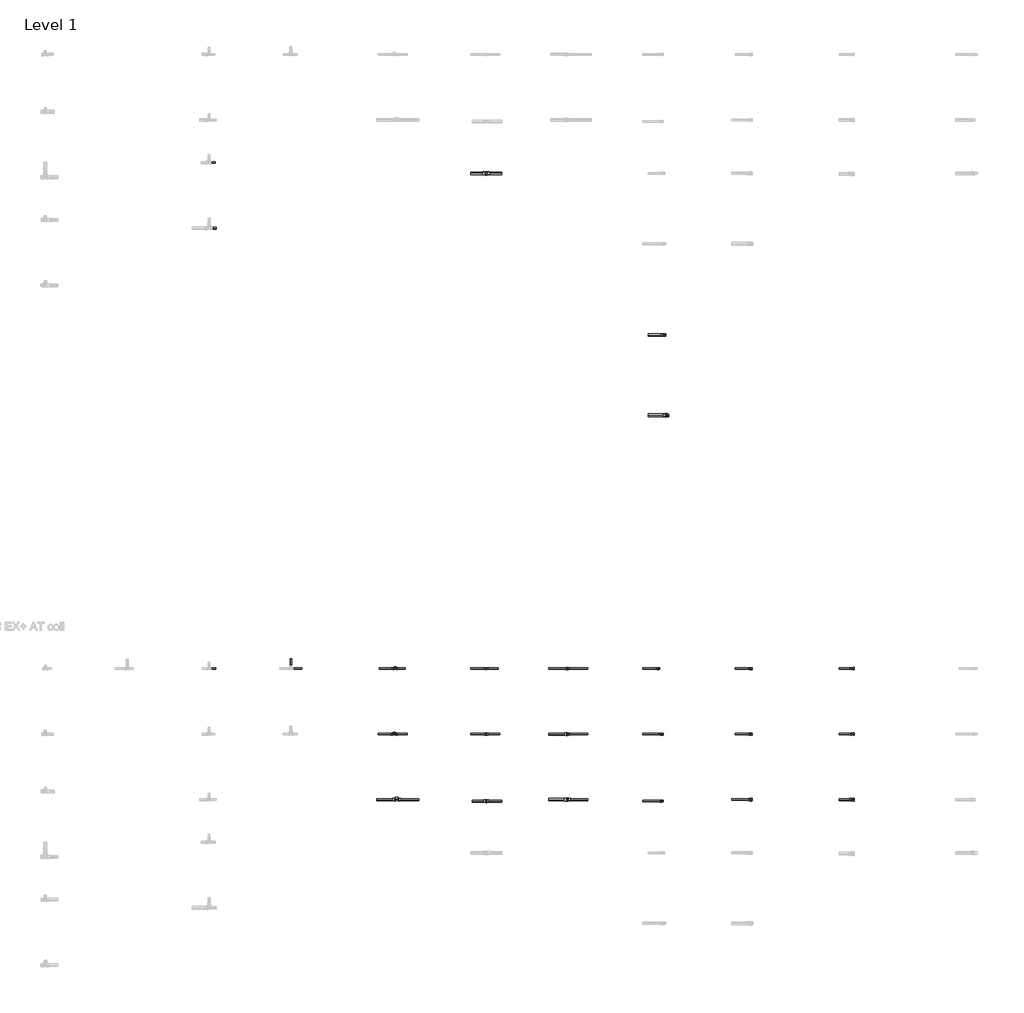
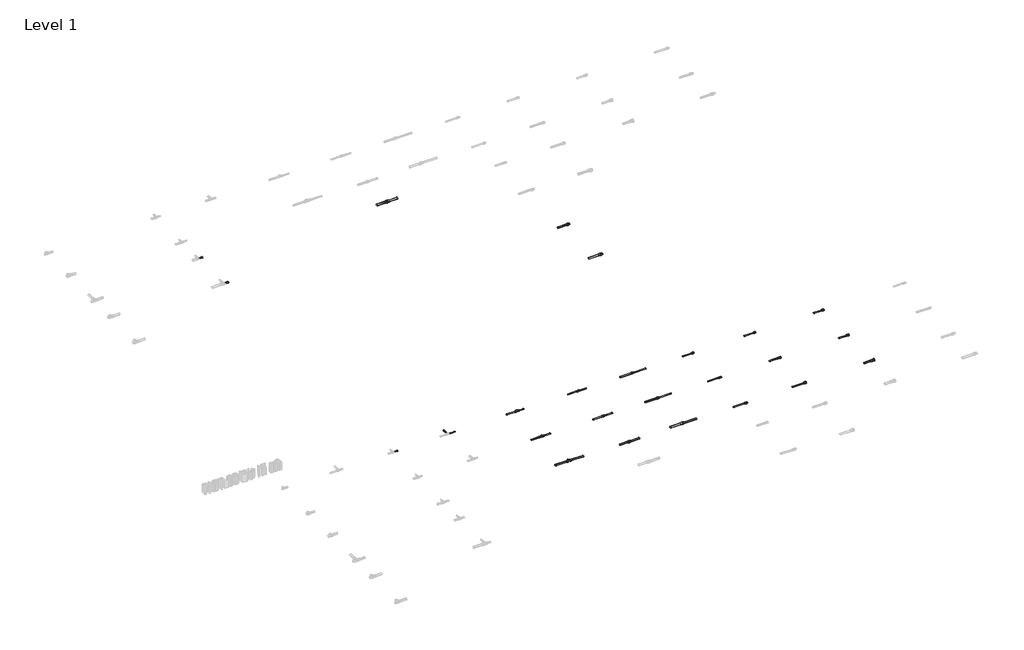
# One storey, part 8 of 16: 36 pipe segments, 21 pipe fittings.
"""IFC4 building model written with IfcOpenShell, lengths in millimetres."""

from ifc_helpers import new_model, si_unit, point, frame, frame_2d, origin, place, context, project, spatial, circle_curve, trimmed, segment, composite_curve, outline, extrude, transform, mapped, element, save
from components import pipe_fitting_15fe286b, pipe_fitting_1a227808, pipe_fitting_455e7b61, pipe_fitting_29307240, pipe_fitting_3f045704, pipe_fitting_db3e6b17, pipe_fitting_a2d92617, pipe_fitting_92973462, pipe_fitting_e5d04139, pipe_fitting_b445dcfe, pipe_fitting_d2a23061, pipe_fitting_8464d15c, pipe_fitting_f8e3a86c, pipe_fitting_d75665eb, pipe_fitting_5e5bb3cb, pipe_fitting_b159315d, pipe_fitting_9284d0bf, pipe_fitting_5ce0ec79, pipe_fitting_622d26cc, pipe_fitting_bacc4522, pipe_fitting_8e6c19f7

model = new_model("IFC4")

# Units and contexts
model_context = context("Model", 3, world=origin())
ifc_project = project(units=[si_unit("LENGTHUNIT", "METRE", prefix="MILLI")], contexts=[model_context])

# Site, building, storey
site = spatial("IfcSite", under=ifc_project)
building = spatial("IfcBuilding", under=site)
storey = spatial("IfcBuildingStorey", under=building, Name="Level 1", Elevation=0.0)

# Pipe fittings
placement = place(None, origin())
pipe_fitting_shape = pipe_fitting_15fe286b(model_context)
element("IfcPipeFitting", 1, ObjectType="FASTLOC_T-piece internal thread EX+ : FSL T thread EX+ AT", at=placement, inside=storey, context=model_context, shape_type="MappedRepresentation", body=[
    mapped(pipe_fitting_shape, transform((34234.0203333, -6287.6479967, 0.0), x_axis=(1.0, 0.0, 0.0), y_axis=(0.0, 1.0, 0.0), z_axis=(0.0, 0.0, 1.0))),
])
pipe_fitting_2_shape = pipe_fitting_1a227808(model_context)
element("IfcPipeFitting", 2, ObjectType="FASTLOC_Coupling reduced EX+ : FSL C EX+ AT", at=placement, inside=storey, context=model_context, shape_type="MappedRepresentation", body=[
    mapped(pipe_fitting_2_shape, transform((36342.2258143, -7887.6479967, 0.0), x_axis=(1.0, 0.0, 0.0), y_axis=(0.0, 1.0, 0.0), z_axis=(0.0, 0.0, 1.0))),
])
pipe_fitting_3_shape = pipe_fitting_455e7b61(model_context)
element("IfcPipeFitting", 3, ObjectType="FASTLOC_Coupling equal EX+ : FSL C EX AT", at=placement, inside=storey, context=model_context, shape_type="MappedRepresentation", body=[
    mapped(pipe_fitting_3_shape, transform((35347.6401575, -6287.6479967, 0.0), x_axis=(1.0, 0.0, 0.0), y_axis=(0.0, 1.0, 0.0), z_axis=(0.0, 0.0, 1.0))),
])
pipe_fitting_4_shape = pipe_fitting_29307240(model_context)
element("IfcPipeFitting", 4, ObjectType="FASTLOC_Adapter_EX+, with internal thread : FSL A internal AT", at=placement, inside=storey, context=model_context, shape_type="MappedRepresentation", body=[
    mapped(pipe_fitting_4_shape, transform((38579.5143796, -6287.6479967, 0.0), x_axis=(1.0, 0.0, 0.0), y_axis=(0.0, 1.0, 0.0), z_axis=(0.0, 0.0, 1.0))),
])
pipe_fitting_5_shape = pipe_fitting_3f045704(model_context)
element("IfcPipeFitting", 5, ObjectType="FASTLOC_Adapter_RX+, with external thread : FSL A C external EX+ AT", at=placement, inside=storey, context=model_context, shape_type="MappedRepresentation", body=[
    mapped(pipe_fitting_5_shape, transform((37445.0524741, -6287.6479967, 0.0), x_axis=(1.0, 0.0, 0.0), y_axis=(0.0, 1.0, 0.0), z_axis=(0.0, 0.0, 1.0))),
])
pipe_fitting_6_shape = pipe_fitting_db3e6b17(model_context)
element("IfcPipeFitting", 6, ObjectType="FASTLOC_Adapter_EX+, with internal thread : FSL A internal AT", at=placement, inside=storey, context=model_context, shape_type="MappedRepresentation", body=[
    mapped(pipe_fitting_6_shape, transform((38579.5143796, -7087.6479967, 0.0), x_axis=(1.0, 0.0, 0.0), y_axis=(0.0, 1.0, 0.0), z_axis=(0.0, 0.0, 1.0))),
])
pipe_fitting_7_shape = pipe_fitting_a2d92617(model_context)
element("IfcPipeFitting", 7, ObjectType="FASTLOC_Adapter_EX+, with internal thread : FSL A internal AT", at=placement, inside=storey, context=model_context, shape_type="MappedRepresentation", body=[
    mapped(pipe_fitting_7_shape, transform((38579.5143796, -7887.6479967, 0.0), x_axis=(1.0, 0.0, 0.0), y_axis=(0.0, 1.0, 0.0), z_axis=(0.0, 0.0, 1.0))),
])
pipe_fitting_8_shape = pipe_fitting_92973462(model_context)
element("IfcPipeFitting", 8, ObjectType="FASTLOC_T-piece internal thread EX+ : FSL T thread EX+ AT", at=placement, inside=storey, context=model_context, shape_type="MappedRepresentation", body=[
    mapped(pipe_fitting_8_shape, transform((34223.972973, -7087.6479967, 0.0), x_axis=(1.0, 0.0, 0.0), y_axis=(0.0, 1.0, 0.0), z_axis=(0.0, 0.0, 1.0))),
])
pipe_fitting_9_shape = pipe_fitting_e5d04139(model_context)
element("IfcPipeFitting", 9, ObjectType="FASTLOC_T-piece internal thread EX+ : FSL T thread EX+ AT", at=placement, inside=storey, context=model_context, shape_type="MappedRepresentation", body=[
    mapped(pipe_fitting_9_shape, transform((34254.9423493, -7887.6479967, 0.0), x_axis=(1.0, 0.0, 0.0), y_axis=(0.0, 1.0, 0.0), z_axis=(0.0, 0.0, 1.0))),
])
pipe_fitting_10_shape = pipe_fitting_b445dcfe(model_context)
element("IfcPipeFitting", 10, ObjectType="FASTLOC_Coupling reduced EX+ : FSL C EX+ AT", at=placement, inside=storey, context=model_context, shape_type="MappedRepresentation", body=[
    mapped(pipe_fitting_10_shape, transform((36342.2258143, -6287.6479967, 0.0), x_axis=(1.0, 0.0, 0.0), y_axis=(0.0, 1.0, 0.0), z_axis=(0.0, 0.0, 1.0))),
])
pipe_fitting_11_shape = pipe_fitting_d2a23061(model_context)
element("IfcPipeFitting", 11, ObjectType="FASTLOC_Coupling reduced EX+ : FSL C EX+ AT", at=placement, inside=storey, context=model_context, shape_type="MappedRepresentation", body=[
    mapped(pipe_fitting_11_shape, transform((36342.2258143, -7087.6479967, 0.0), x_axis=(1.0, 0.0, 0.0), y_axis=(0.0, 1.0, 0.0), z_axis=(0.0, 0.0, 1.0))),
])
pipe_fitting_12_shape = pipe_fitting_8464d15c(model_context)
element("IfcPipeFitting", 12, ObjectType="FASTLOC_Coupling equal EX+ : FSL C EX DE", at=placement, inside=storey, context=model_context, shape_type="MappedRepresentation", body=[
    mapped(pipe_fitting_12_shape, transform((35347.6401575, -239.0537829, 0.0), x_axis=(1.0, 0.0, 0.0), y_axis=(0.0, 1.0, 0.0), z_axis=(0.0, 0.0, 1.0))),
])
pipe_fitting_13_shape = pipe_fitting_f8e3a86c(model_context)
element("IfcPipeFitting", 13, ObjectType="FASTLOC_Coupling equal EX+ : FSL C EX AT", at=placement, inside=storey, context=model_context, shape_type="MappedRepresentation", body=[
    mapped(pipe_fitting_13_shape, transform((35347.6401575, -7087.6479967, 0.0), x_axis=(1.0, 0.0, 0.0), y_axis=(0.0, 1.0, 0.0), z_axis=(0.0, 0.0, 1.0))),
])
pipe_fitting_14_shape = pipe_fitting_d75665eb(model_context)
element("IfcPipeFitting", 14, ObjectType="FASTLOC_Coupling equal EX+ : FSL C EX AT", at=placement, inside=storey, context=model_context, shape_type="MappedRepresentation", body=[
    mapped(pipe_fitting_14_shape, transform((35347.6401575, -7906.354246, 0.0), x_axis=(1.0, 0.0, 0.0), y_axis=(0.0, 1.0, 0.0), z_axis=(0.0, 0.0, 1.0))),
])
pipe_fitting_15_shape = pipe_fitting_5e5bb3cb(model_context)
element("IfcPipeFitting", 15, ObjectType="FASTLOC_Adapter_RX+, with external thread : FSL A C external EX+ DE", at=placement, inside=storey, context=model_context, shape_type="MappedRepresentation", body=[
    mapped(pipe_fitting_15_shape, transform((37515.9601208, -2213.6704117, 0.0), x_axis=(1.0, 0.0, 0.0), y_axis=(0.0, 1.0, 0.0), z_axis=(0.0, 0.0, 1.0))),
])
pipe_fitting_16_shape = pipe_fitting_b159315d(model_context)
element("IfcPipeFitting", 16, ObjectType="FASTLOC_Adapter_RX+, with external thread : FSL A C external EX+ DE", at=placement, inside=storey, context=model_context, shape_type="MappedRepresentation", body=[
    mapped(pipe_fitting_16_shape, transform((37553.9463601, -3193.7153858, 0.0), x_axis=(1.0, 0.0, 0.0), y_axis=(0.0, 1.0, 0.0), z_axis=(0.0, 0.0, 1.0))),
])
pipe_fitting_17_shape = pipe_fitting_9284d0bf(model_context)
element("IfcPipeFitting", 17, ObjectType="FASTLOC_Adapter_RX+, with external thread : FSL A C external EX+ AT", at=placement, inside=storey, context=model_context, shape_type="MappedRepresentation", body=[
    mapped(pipe_fitting_17_shape, transform((37480.5062975, -7087.6479967, 0.0), x_axis=(1.0, 0.0, 0.0), y_axis=(0.0, 1.0, 0.0), z_axis=(0.0, 0.0, 1.0))),
])
pipe_fitting_18_shape = pipe_fitting_5ce0ec79(model_context)
element("IfcPipeFitting", 18, ObjectType="FASTLOC_Adapter_RX+, with external thread : FSL A C external EX+ AT", at=placement, inside=storey, context=model_context, shape_type="MappedRepresentation", body=[
    mapped(pipe_fitting_18_shape, transform((37490.6359613, -7906.354246, 0.0), x_axis=(1.0, 0.0, 0.0), y_axis=(0.0, 1.0, 0.0), z_axis=(0.0, 0.0, 1.0))),
])
pipe_fitting_19_shape = pipe_fitting_622d26cc(model_context)
element("IfcPipeFitting", 19, ObjectType="FASTLOC_Adapter with union nut EX+ : FSL A union nut EX+ AT", at=placement, inside=storey, context=model_context, shape_type="MappedRepresentation", body=[
    mapped(pipe_fitting_19_shape, transform((39818.3503777, -7087.6479967, 0.0), x_axis=(1.0, 0.0, 0.0), y_axis=(0.0, 1.0, 0.0), z_axis=(0.0, 0.0, 1.0))),
])
pipe_fitting_20_shape = pipe_fitting_bacc4522(model_context)
element("IfcPipeFitting", 20, ObjectType="FASTLOC_Adapter with union nut EX+ : FSL A union nut EX+ AT", at=placement, inside=storey, context=model_context, shape_type="MappedRepresentation", body=[
    mapped(pipe_fitting_20_shape, transform((39818.3503777, -7887.6479967, 0.0), x_axis=(1.0, 0.0, 0.0), y_axis=(0.0, 1.0, 0.0), z_axis=(0.0, 0.0, 1.0))),
])
pipe_fitting_21_shape = pipe_fitting_8e6c19f7(model_context)
element("IfcPipeFitting", 21, ObjectType="FASTLOC_Adapter with union nut EX+ : FSL A union nut EX+ AT", at=placement, inside=storey, context=model_context, shape_type="MappedRepresentation", body=[
    mapped(pipe_fitting_21_shape, transform((39818.3503777, -6287.6479967, 0.0), x_axis=(1.0, 0.0, 0.0), y_axis=(0.0, 1.0, 0.0), z_axis=(0.0, 0.0, 1.0))),
])

# Pipe segments
element("IfcPipeSegment", 22, ObjectType="FASTLOC EX+ ML DE coil", at=placement, inside=storey, context=model_context, shape_type="SweptSolid", body=[
    extrude(outline(composite_curve([segment(trimmed(circle_curve(frame_2d((-2213.6704117, 0.0)), 12.5), [point((-2201.1704117, 0.0))], [point((-2213.6704117, -12.5))], False, "CARTESIAN"), True, "CONTINUOUS"), segment(trimmed(circle_curve(frame_2d((-2213.6704117, 0.0)), 12.5), [point((-2213.6704117, -12.5))], [point((-2226.1704117, 0.0))], False, "CARTESIAN"), True, "CONTINUOUS"), segment(trimmed(circle_curve(frame_2d((-2213.6704117, 0.0)), 12.5), [point((-2226.1704117, 0.0))], [point((-2213.6704117, 12.5))], False, "CARTESIAN"), True, "CONTINUOUS"), segment(trimmed(circle_curve(frame_2d((-2213.6704117, 0.0)), 12.5), [point((-2213.6704117, 12.5))], [point((-2201.1704117, 0.0))], False, "CARTESIAN"), True, "CONTINUOUS")], self_intersect=False)), frame((37326.5601208, 0.0, 0.0), z_axis=(1.0, 0.0, 0.0), x_axis=(0.0, 1.0, 0.0)), (0.0, 0.0, 1.0), 180.0),
])
element("IfcPipeSegment", 23, ObjectType="FASTLOC EX+ ML DE coil", at=placement, inside=storey, context=model_context, shape_type="SweptSolid", body=[
    extrude(outline(composite_curve([segment(trimmed(circle_curve(frame_2d((-239.0537829, 0.0)), 16.0), [point((-255.0537829, 0.0))], [point((-239.0537829, 16.0))], False, "CARTESIAN"), True, "CONTINUOUS"), segment(trimmed(circle_curve(frame_2d((-239.0537829, 0.0)), 16.0), [point((-239.0537829, 16.0))], [point((-223.0537829, 0.0))], False, "CARTESIAN"), True, "CONTINUOUS"), segment(trimmed(circle_curve(frame_2d((-239.0537829, 0.0)), 16.0), [point((-223.0537829, 0.0))], [point((-239.0537829, -16.0))], False, "CARTESIAN"), True, "CONTINUOUS"), segment(trimmed(circle_curve(frame_2d((-239.0537829, 0.0)), 16.0), [point((-239.0537829, -16.0))], [point((-255.0537829, 0.0))], False, "CARTESIAN"), True, "CONTINUOUS")], self_intersect=False)), frame((35357.6401575, 0.0, 0.0), z_axis=(1.0, 0.0, 0.0), x_axis=(0.0, 1.0, 0.0)), (0.0, 0.0, 1.0), 178.0),
])
element("IfcPipeSegment", 24, ObjectType="FASTLOC EX+ ML DE coil", at=placement, inside=storey, context=model_context, shape_type="SweptSolid", body=[
    extrude(outline(composite_curve([segment(trimmed(circle_curve(frame_2d((-239.0537829, 0.0)), 16.0), [point((-223.0537829, 0.0))], [point((-239.0537829, -16.0))], False, "CARTESIAN"), True, "CONTINUOUS"), segment(trimmed(circle_curve(frame_2d((-239.0537829, 0.0)), 16.0), [point((-239.0537829, -16.0))], [point((-255.0537829, 0.0))], False, "CARTESIAN"), True, "CONTINUOUS"), segment(trimmed(circle_curve(frame_2d((-239.0537829, 0.0)), 16.0), [point((-255.0537829, 0.0))], [point((-239.0537829, 16.0))], False, "CARTESIAN"), True, "CONTINUOUS"), segment(trimmed(circle_curve(frame_2d((-239.0537829, 0.0)), 16.0), [point((-239.0537829, 16.0))], [point((-223.0537829, 0.0))], False, "CARTESIAN"), True, "CONTINUOUS")], self_intersect=False)), frame((35157.6401575, 0.0, 0.0), z_axis=(1.0, 0.0, 0.0), x_axis=(0.0, 1.0, 0.0)), (0.0, 0.0, 1.0), 180.0),
])
element("IfcPipeSegment", 25, ObjectType="FASTLOC EX+ ML DE coil", at=placement, inside=storey, context=model_context, shape_type="SweptSolid", body=[
    extrude(outline(composite_curve([segment(trimmed(circle_curve(frame_2d((-107.6479967, 0.0)), 10.0), [point((-117.6479967, 0.0))], [point((-107.6479967, 10.0))], False, "CARTESIAN"), True, "CONTINUOUS"), segment(trimmed(circle_curve(frame_2d((-107.6479967, 0.0)), 10.0), [point((-107.6479967, 10.0))], [point((-97.6479967, 0.0))], False, "CARTESIAN"), True, "CONTINUOUS"), segment(trimmed(circle_curve(frame_2d((-107.6479967, 0.0)), 10.0), [point((-97.6479967, 0.0))], [point((-107.6479967, -10.0))], False, "CARTESIAN"), True, "CONTINUOUS"), segment(trimmed(circle_curve(frame_2d((-107.6479967, 0.0)), 10.0), [point((-107.6479967, -10.0))], [point((-117.6479967, 0.0))], False, "CARTESIAN"), True, "CONTINUOUS")], self_intersect=False)), frame((31980.3146925, 0.0, 0.0), z_axis=(1.0, 0.0, 0.0), x_axis=(0.0, 1.0, 0.0)), (0.0, 0.0, 1.0), 60.0),
])
element("IfcPipeSegment", 26, ObjectType="FASTLOC EX+ ML DE coil", at=placement, inside=storey, context=model_context, shape_type="SweptSolid", body=[
    extrude(outline(composite_curve([segment(trimmed(circle_curve(frame_2d((-907.6479967, 0.0)), 12.5), [point((-920.1479967, 0.0))], [point((-907.6479967, 12.5))], False, "CARTESIAN"), True, "CONTINUOUS"), segment(trimmed(circle_curve(frame_2d((-907.6479967, 0.0)), 12.5), [point((-907.6479967, 12.5))], [point((-895.1479967, 0.0))], False, "CARTESIAN"), True, "CONTINUOUS"), segment(trimmed(circle_curve(frame_2d((-907.6479967, 0.0)), 12.5), [point((-895.1479967, 0.0))], [point((-907.6479967, -12.5))], False, "CARTESIAN"), True, "CONTINUOUS"), segment(trimmed(circle_curve(frame_2d((-907.6479967, 0.0)), 12.5), [point((-907.6479967, -12.5))], [point((-920.1479967, 0.0))], False, "CARTESIAN"), True, "CONTINUOUS")], self_intersect=False)), frame((31983.0146925, 0.0, 0.0), z_axis=(1.0, 0.0, 0.0), x_axis=(0.0, 1.0, 0.0)), (0.0, 0.0, 1.0), 70.4),
])
element("IfcPipeSegment", 27, ObjectType="FASTLOC EX+ ML DE coil", at=placement, inside=storey, context=model_context, shape_type="SweptSolid", body=[
    extrude(outline(composite_curve([segment(trimmed(circle_curve(frame_2d((-3193.7153858, 0.0)), 16.0), [point((-3177.7153858, 0.0))], [point((-3193.7153858, -16.0))], False, "CARTESIAN"), True, "CONTINUOUS"), segment(trimmed(circle_curve(frame_2d((-3193.7153858, 0.0)), 16.0), [point((-3193.7153858, -16.0))], [point((-3209.7153858, 0.0))], False, "CARTESIAN"), True, "CONTINUOUS"), segment(trimmed(circle_curve(frame_2d((-3193.7153858, 0.0)), 16.0), [point((-3209.7153858, 0.0))], [point((-3193.7153858, 16.0))], False, "CARTESIAN"), True, "CONTINUOUS"), segment(trimmed(circle_curve(frame_2d((-3193.7153858, 0.0)), 16.0), [point((-3193.7153858, 16.0))], [point((-3177.7153858, 0.0))], False, "CARTESIAN"), True, "CONTINUOUS")], self_intersect=False)), frame((37326.5601208, 0.0, 0.0), z_axis=(1.0, 0.0, 0.0), x_axis=(0.0, 1.0, 0.0)), (0.0, 0.0, 1.0), 212.7862393),
])
element("IfcPipeSegment", 28, ObjectType="FASTLOC EX+ ML AT coil", at=placement, inside=storey, context=model_context, shape_type="SweptSolid", body=[
    extrude(outline(composite_curve([segment(trimmed(circle_curve(frame_2d((-6287.6479967, 0.0)), 8.0), [point((-6279.6479967, 0.0))], [point((-6287.6479967, -8.0))], False, "CARTESIAN"), True, "CONTINUOUS"), segment(trimmed(circle_curve(frame_2d((-6287.6479967, 0.0)), 8.0), [point((-6287.6479967, -8.0))], [point((-6295.6479967, 0.0))], False, "CARTESIAN"), True, "CONTINUOUS"), segment(trimmed(circle_curve(frame_2d((-6287.6479967, 0.0)), 8.0), [point((-6295.6479967, 0.0))], [point((-6287.6479967, 8.0))], False, "CARTESIAN"), True, "CONTINUOUS"), segment(trimmed(circle_curve(frame_2d((-6287.6479967, 0.0)), 8.0), [point((-6287.6479967, 8.0))], [point((-6279.6479967, 0.0))], False, "CARTESIAN"), True, "CONTINUOUS")], self_intersect=False)), frame((39659.3503777, 0.0, 0.0), z_axis=(1.0, 0.0, 0.0), x_axis=(0.0, 1.0, 0.0)), (0.0, 0.0, 1.0), 150.0),
])
element("IfcPipeSegment", 29, ObjectType="FASTLOC EX+ ML AT coil", at=placement, inside=storey, context=model_context, shape_type="SweptSolid", body=[
    extrude(outline(composite_curve([segment(trimmed(circle_curve(frame_2d((-7087.6479967, 0.0)), 10.0), [point((-7077.6479967, 0.0))], [point((-7087.6479967, -10.0))], False, "CARTESIAN"), True, "CONTINUOUS"), segment(trimmed(circle_curve(frame_2d((-7087.6479967, 0.0)), 10.0), [point((-7087.6479967, -10.0))], [point((-7097.6479967, 0.0))], False, "CARTESIAN"), True, "CONTINUOUS"), segment(trimmed(circle_curve(frame_2d((-7087.6479967, 0.0)), 10.0), [point((-7097.6479967, 0.0))], [point((-7087.6479967, 10.0))], False, "CARTESIAN"), True, "CONTINUOUS"), segment(trimmed(circle_curve(frame_2d((-7087.6479967, 0.0)), 10.0), [point((-7087.6479967, 10.0))], [point((-7077.6479967, 0.0))], False, "CARTESIAN"), True, "CONTINUOUS")], self_intersect=False)), frame((39659.3503777, 0.0, 0.0), z_axis=(1.0, 0.0, 0.0), x_axis=(0.0, 1.0, 0.0)), (0.0, 0.0, 1.0), 150.0),
])
element("IfcPipeSegment", 30, ObjectType="FASTLOC EX+ ML AT coil", at=placement, inside=storey, context=model_context, shape_type="SweptSolid", body=[
    extrude(outline(composite_curve([segment(trimmed(circle_curve(frame_2d((-7887.6479967, 0.0)), 12.5), [point((-7875.1479967, 0.0))], [point((-7887.6479967, -12.5))], False, "CARTESIAN"), True, "CONTINUOUS"), segment(trimmed(circle_curve(frame_2d((-7887.6479967, 0.0)), 12.5), [point((-7887.6479967, -12.5))], [point((-7900.1479967, 0.0))], False, "CARTESIAN"), True, "CONTINUOUS"), segment(trimmed(circle_curve(frame_2d((-7887.6479967, 0.0)), 12.5), [point((-7900.1479967, 0.0))], [point((-7887.6479967, 12.5))], False, "CARTESIAN"), True, "CONTINUOUS"), segment(trimmed(circle_curve(frame_2d((-7887.6479967, 0.0)), 12.5), [point((-7887.6479967, 12.5))], [point((-7875.1479967, 0.0))], False, "CARTESIAN"), True, "CONTINUOUS")], self_intersect=False)), frame((39659.3503777, 0.0, 0.0), z_axis=(1.0, 0.0, 0.0), x_axis=(0.0, 1.0, 0.0)), (0.0, 0.0, 1.0), 148.7),
])
element("IfcPipeSegment", 31, ObjectType="FASTLOC EX+ ML AT coil", at=placement, inside=storey, context=model_context, shape_type="SweptSolid", body=[
    extrude(outline(composite_curve([segment(trimmed(circle_curve(frame_2d((-6287.6479967, 0.0)), 8.0), [point((-6279.6479967, 0.0))], [point((-6287.6479967, -8.0))], False, "CARTESIAN"), True, "CONTINUOUS"), segment(trimmed(circle_curve(frame_2d((-6287.6479967, 0.0)), 8.0), [point((-6287.6479967, -8.0))], [point((-6295.6479967, 0.0))], False, "CARTESIAN"), True, "CONTINUOUS"), segment(trimmed(circle_curve(frame_2d((-6287.6479967, 0.0)), 8.0), [point((-6295.6479967, 0.0))], [point((-6287.6479967, 8.0))], False, "CARTESIAN"), True, "CONTINUOUS"), segment(trimmed(circle_curve(frame_2d((-6287.6479967, 0.0)), 8.0), [point((-6287.6479967, 8.0))], [point((-6279.6479967, 0.0))], False, "CARTESIAN"), True, "CONTINUOUS")], self_intersect=False)), frame((38387.1143796, 0.0, 0.0), z_axis=(1.0, 0.0, 0.0), x_axis=(0.0, 1.0, 0.0)), (0.0, 0.0, 1.0), 180.0),
])
element("IfcPipeSegment", 32, ObjectType="FASTLOC EX+ ML AT coil", at=placement, inside=storey, context=model_context, shape_type="SweptSolid", body=[
    extrude(outline(composite_curve([segment(trimmed(circle_curve(frame_2d((-7087.6479967, 0.0)), 10.0), [point((-7077.6479967, 0.0))], [point((-7087.6479967, -10.0))], False, "CARTESIAN"), True, "CONTINUOUS"), segment(trimmed(circle_curve(frame_2d((-7087.6479967, 0.0)), 10.0), [point((-7087.6479967, -10.0))], [point((-7097.6479967, 0.0))], False, "CARTESIAN"), True, "CONTINUOUS"), segment(trimmed(circle_curve(frame_2d((-7087.6479967, 0.0)), 10.0), [point((-7097.6479967, 0.0))], [point((-7087.6479967, 10.0))], False, "CARTESIAN"), True, "CONTINUOUS"), segment(trimmed(circle_curve(frame_2d((-7087.6479967, 0.0)), 10.0), [point((-7087.6479967, 10.0))], [point((-7077.6479967, 0.0))], False, "CARTESIAN"), True, "CONTINUOUS")], self_intersect=False)), frame((38387.1143796, 0.0, 0.0), z_axis=(1.0, 0.0, 0.0), x_axis=(0.0, 1.0, 0.0)), (0.0, 0.0, 1.0), 180.7),
])
element("IfcPipeSegment", 33, ObjectType="FASTLOC EX+ ML AT coil", at=placement, inside=storey, context=model_context, shape_type="SweptSolid", body=[
    extrude(outline(composite_curve([segment(trimmed(circle_curve(frame_2d((-7887.6479967, 0.0)), 10.0), [point((-7877.6479967, 0.0))], [point((-7887.6479967, -10.0))], False, "CARTESIAN"), True, "CONTINUOUS"), segment(trimmed(circle_curve(frame_2d((-7887.6479967, 0.0)), 10.0), [point((-7887.6479967, -10.0))], [point((-7897.6479967, 0.0))], False, "CARTESIAN"), True, "CONTINUOUS"), segment(trimmed(circle_curve(frame_2d((-7887.6479967, 0.0)), 10.0), [point((-7897.6479967, 0.0))], [point((-7887.6479967, 10.0))], False, "CARTESIAN"), True, "CONTINUOUS"), segment(trimmed(circle_curve(frame_2d((-7887.6479967, 0.0)), 10.0), [point((-7887.6479967, 10.0))], [point((-7877.6479967, 0.0))], False, "CARTESIAN"), True, "CONTINUOUS")], self_intersect=False)), frame((38346.2143796, 0.0, 0.0), z_axis=(1.0, 0.0, 0.0), x_axis=(0.0, 1.0, 0.0)), (0.0, 0.0, 1.0), 220.0),
])
element("IfcPipeSegment", 34, ObjectType="FASTLOC EX+ ML AT coil", at=placement, inside=storey, context=model_context, shape_type="SweptSolid", body=[
    extrude(outline(composite_curve([segment(trimmed(circle_curve(frame_2d((-7906.354246, 0.0)), 10.0), [point((-7896.354246, 0.0))], [point((-7906.354246, -10.0))], False, "CARTESIAN"), True, "CONTINUOUS"), segment(trimmed(circle_curve(frame_2d((-7906.354246, 0.0)), 10.0), [point((-7906.354246, -10.0))], [point((-7916.354246, 0.0))], False, "CARTESIAN"), True, "CONTINUOUS"), segment(trimmed(circle_curve(frame_2d((-7906.354246, 0.0)), 10.0), [point((-7916.354246, 0.0))], [point((-7906.354246, 10.0))], False, "CARTESIAN"), True, "CONTINUOUS"), segment(trimmed(circle_curve(frame_2d((-7906.354246, 0.0)), 10.0), [point((-7906.354246, 10.0))], [point((-7896.354246, 0.0))], False, "CARTESIAN"), True, "CONTINUOUS")], self_intersect=False)), frame((37261.9359613, 0.0, 0.0), z_axis=(1.0, 0.0, 0.0), x_axis=(0.0, 1.0, 0.0)), (0.0, 0.0, 1.0), 220.0),
])
element("IfcPipeSegment", 35, ObjectType="FASTLOC EX+ ML AT coil", at=placement, inside=storey, context=model_context, shape_type="SweptSolid", body=[
    extrude(outline(composite_curve([segment(trimmed(circle_curve(frame_2d((-7087.6479967, 0.0)), 8.0), [point((-7079.6479967, 0.0))], [point((-7087.6479967, -8.0))], False, "CARTESIAN"), True, "CONTINUOUS"), segment(trimmed(circle_curve(frame_2d((-7087.6479967, 0.0)), 8.0), [point((-7087.6479967, -8.0))], [point((-7095.6479967, 0.0))], False, "CARTESIAN"), True, "CONTINUOUS"), segment(trimmed(circle_curve(frame_2d((-7087.6479967, 0.0)), 8.0), [point((-7095.6479967, 0.0))], [point((-7087.6479967, 8.0))], False, "CARTESIAN"), True, "CONTINUOUS"), segment(trimmed(circle_curve(frame_2d((-7087.6479967, 0.0)), 8.0), [point((-7087.6479967, 8.0))], [point((-7079.6479967, 0.0))], False, "CARTESIAN"), True, "CONTINUOUS")], self_intersect=False)), frame((37261.9359613, 0.0, 0.0), z_axis=(1.0, 0.0, 0.0), x_axis=(0.0, 1.0, 0.0)), (0.0, 0.0, 1.0), 209.6703362),
])
element("IfcPipeSegment", 36, ObjectType="FASTLOC EX+ ML AT coil", at=placement, inside=storey, context=model_context, shape_type="SweptSolid", body=[
    extrude(outline(composite_curve([segment(trimmed(circle_curve(frame_2d((-6287.6479967, 0.0)), 8.0), [point((-6279.6479967, 0.0))], [point((-6287.6479967, -8.0))], False, "CARTESIAN"), True, "CONTINUOUS"), segment(trimmed(circle_curve(frame_2d((-6287.6479967, 0.0)), 8.0), [point((-6287.6479967, -8.0))], [point((-6295.6479967, 0.0))], False, "CARTESIAN"), True, "CONTINUOUS"), segment(trimmed(circle_curve(frame_2d((-6287.6479967, 0.0)), 8.0), [point((-6295.6479967, 0.0))], [point((-6287.6479967, 8.0))], False, "CARTESIAN"), True, "CONTINUOUS"), segment(trimmed(circle_curve(frame_2d((-6287.6479967, 0.0)), 8.0), [point((-6287.6479967, 8.0))], [point((-6279.6479967, 0.0))], False, "CARTESIAN"), True, "CONTINUOUS")], self_intersect=False)), frame((37261.9359613, 0.0, 0.0), z_axis=(1.0, 0.0, 0.0), x_axis=(0.0, 1.0, 0.0)), (0.0, 0.0, 1.0), 174.2165128),
])
element("IfcPipeSegment", 37, ObjectType="FASTLOC EX+ ML AT coil", at=placement, inside=storey, context=model_context, shape_type="SweptSolid", body=[
    extrude(outline(composite_curve([segment(trimmed(circle_curve(frame_2d((-6287.6479967, 0.0)), 8.0), [point((-6295.6479967, 0.0))], [point((-6287.6479967, 8.0))], False, "CARTESIAN"), True, "CONTINUOUS"), segment(trimmed(circle_curve(frame_2d((-6287.6479967, 0.0)), 8.0), [point((-6287.6479967, 8.0))], [point((-6279.6479967, 0.0))], False, "CARTESIAN"), True, "CONTINUOUS"), segment(trimmed(circle_curve(frame_2d((-6287.6479967, 0.0)), 8.0), [point((-6279.6479967, 0.0))], [point((-6287.6479967, -8.0))], False, "CARTESIAN"), True, "CONTINUOUS"), segment(trimmed(circle_curve(frame_2d((-6287.6479967, 0.0)), 8.0), [point((-6287.6479967, -8.0))], [point((-6295.6479967, 0.0))], False, "CARTESIAN"), True, "CONTINUOUS")], self_intersect=False)), frame((35354.8401575, 0.0, 0.0), z_axis=(1.0, 0.0, 0.0), x_axis=(0.0, 1.0, 0.0)), (0.0, 0.0, 1.0), 140.0),
])
element("IfcPipeSegment", 38, ObjectType="FASTLOC EX+ ML AT coil", at=placement, inside=storey, context=model_context, shape_type="SweptSolid", body=[
    extrude(outline(composite_curve([segment(trimmed(circle_curve(frame_2d((-6287.6479967, 0.0)), 8.0), [point((-6279.6479967, 0.0))], [point((-6287.6479967, -8.0))], False, "CARTESIAN"), True, "CONTINUOUS"), segment(trimmed(circle_curve(frame_2d((-6287.6479967, 0.0)), 8.0), [point((-6287.6479967, -8.0))], [point((-6295.6479967, 0.0))], False, "CARTESIAN"), True, "CONTINUOUS"), segment(trimmed(circle_curve(frame_2d((-6287.6479967, 0.0)), 8.0), [point((-6295.6479967, 0.0))], [point((-6287.6479967, 8.0))], False, "CARTESIAN"), True, "CONTINUOUS"), segment(trimmed(circle_curve(frame_2d((-6287.6479967, 0.0)), 8.0), [point((-6287.6479967, 8.0))], [point((-6279.6479967, 0.0))], False, "CARTESIAN"), True, "CONTINUOUS")], self_intersect=False)), frame((35160.4401575, 0.0, 0.0), z_axis=(1.0, 0.0, 0.0), x_axis=(0.0, 1.0, 0.0)), (0.0, 0.0, 1.0), 180.0),
])
element("IfcPipeSegment", 39, ObjectType="FASTLOC EX+ ML AT coil", at=placement, inside=storey, context=model_context, shape_type="SweptSolid", body=[
    extrude(outline(composite_curve([segment(trimmed(circle_curve(frame_2d((-7087.6479967, 0.0)), 10.0), [point((-7097.6479967, 0.0))], [point((-7087.6479967, 10.0))], False, "CARTESIAN"), True, "CONTINUOUS"), segment(trimmed(circle_curve(frame_2d((-7087.6479967, 0.0)), 10.0), [point((-7087.6479967, 10.0))], [point((-7077.6479967, 0.0))], False, "CARTESIAN"), True, "CONTINUOUS"), segment(trimmed(circle_curve(frame_2d((-7087.6479967, 0.0)), 10.0), [point((-7077.6479967, 0.0))], [point((-7087.6479967, -10.0))], False, "CARTESIAN"), True, "CONTINUOUS"), segment(trimmed(circle_curve(frame_2d((-7087.6479967, 0.0)), 10.0), [point((-7087.6479967, -10.0))], [point((-7097.6479967, 0.0))], False, "CARTESIAN"), True, "CONTINUOUS")], self_intersect=False)), frame((35355.0401575, 0.0, 0.0), z_axis=(1.0, 0.0, 0.0), x_axis=(0.0, 1.0, 0.0)), (0.0, 0.0, 1.0), 160.0),
])
element("IfcPipeSegment", 40, ObjectType="FASTLOC EX+ ML AT coil", at=placement, inside=storey, context=model_context, shape_type="SweptSolid", body=[
    extrude(outline(composite_curve([segment(trimmed(circle_curve(frame_2d((-7087.6479967, 0.0)), 10.0), [point((-7077.6479967, 0.0))], [point((-7087.6479967, -10.0))], False, "CARTESIAN"), True, "CONTINUOUS"), segment(trimmed(circle_curve(frame_2d((-7087.6479967, 0.0)), 10.0), [point((-7087.6479967, -10.0))], [point((-7097.6479967, 0.0))], False, "CARTESIAN"), True, "CONTINUOUS"), segment(trimmed(circle_curve(frame_2d((-7087.6479967, 0.0)), 10.0), [point((-7097.6479967, 0.0))], [point((-7087.6479967, 10.0))], False, "CARTESIAN"), True, "CONTINUOUS"), segment(trimmed(circle_curve(frame_2d((-7087.6479967, 0.0)), 10.0), [point((-7087.6479967, 10.0))], [point((-7077.6479967, 0.0))], False, "CARTESIAN"), True, "CONTINUOUS")], self_intersect=False)), frame((35160.4401575, 0.0, 0.0), z_axis=(1.0, 0.0, 0.0), x_axis=(0.0, 1.0, 0.0)), (0.0, 0.0, 1.0), 179.8),
])
element("IfcPipeSegment", 41, ObjectType="FASTLOC EX+ ML AT coil", at=placement, inside=storey, context=model_context, shape_type="SweptSolid", body=[
    extrude(outline(composite_curve([segment(trimmed(circle_curve(frame_2d((-7906.354246, 0.0)), 12.5), [point((-7918.854246, 0.0))], [point((-7906.354246, 12.5))], False, "CARTESIAN"), True, "CONTINUOUS"), segment(trimmed(circle_curve(frame_2d((-7906.354246, 0.0)), 12.5), [point((-7906.354246, 12.5))], [point((-7893.854246, 0.0))], False, "CARTESIAN"), True, "CONTINUOUS"), segment(trimmed(circle_curve(frame_2d((-7906.354246, 0.0)), 12.5), [point((-7893.854246, 0.0))], [point((-7906.354246, -12.5))], False, "CARTESIAN"), True, "CONTINUOUS"), segment(trimmed(circle_curve(frame_2d((-7906.354246, 0.0)), 12.5), [point((-7906.354246, -12.5))], [point((-7918.854246, 0.0))], False, "CARTESIAN"), True, "CONTINUOUS")], self_intersect=False)), frame((35355.6401575, 0.0, 0.0), z_axis=(1.0, 0.0, 0.0), x_axis=(0.0, 1.0, 0.0)), (0.0, 0.0, 1.0), 180.0),
])
element("IfcPipeSegment", 42, ObjectType="FASTLOC EX+ ML AT coil", at=placement, inside=storey, context=model_context, shape_type="SweptSolid", body=[
    extrude(outline(composite_curve([segment(trimmed(circle_curve(frame_2d((-7906.354246, 0.0)), 12.5), [point((-7893.854246, 0.0))], [point((-7906.354246, -12.5))], False, "CARTESIAN"), True, "CONTINUOUS"), segment(trimmed(circle_curve(frame_2d((-7906.354246, 0.0)), 12.5), [point((-7906.354246, -12.5))], [point((-7918.854246, 0.0))], False, "CARTESIAN"), True, "CONTINUOUS"), segment(trimmed(circle_curve(frame_2d((-7906.354246, 0.0)), 12.5), [point((-7918.854246, 0.0))], [point((-7906.354246, 12.5))], False, "CARTESIAN"), True, "CONTINUOUS"), segment(trimmed(circle_curve(frame_2d((-7906.354246, 0.0)), 12.5), [point((-7906.354246, 12.5))], [point((-7893.854246, 0.0))], False, "CARTESIAN"), True, "CONTINUOUS")], self_intersect=False)), frame((35179.6401575, 0.0, 0.0), z_axis=(1.0, 0.0, 0.0), x_axis=(0.0, 1.0, 0.0)), (0.0, 0.0, 1.0), 160.0),
])
element("IfcPipeSegment", 43, ObjectType="FASTLOC EX+ ML AT coil", at=placement, inside=storey, context=model_context, shape_type="SweptSolid", body=[
    extrude(outline(composite_curve([segment(trimmed(circle_curve(frame_2d((-7887.6479967, 0.0)), 12.5), [point((-7900.1479967, 0.0))], [point((-7887.6479967, 12.5))], False, "CARTESIAN"), True, "CONTINUOUS"), segment(trimmed(circle_curve(frame_2d((-7887.6479967, 0.0)), 12.5), [point((-7887.6479967, 12.5))], [point((-7875.1479967, 0.0))], False, "CARTESIAN"), True, "CONTINUOUS"), segment(trimmed(circle_curve(frame_2d((-7887.6479967, 0.0)), 12.5), [point((-7875.1479967, 0.0))], [point((-7887.6479967, -12.5))], False, "CARTESIAN"), True, "CONTINUOUS"), segment(trimmed(circle_curve(frame_2d((-7887.6479967, 0.0)), 12.5), [point((-7887.6479967, -12.5))], [point((-7900.1479967, 0.0))], False, "CARTESIAN"), True, "CONTINUOUS")], self_intersect=False)), frame((34281.6423493, 0.0, 0.0), z_axis=(1.0, 0.0, 0.0), x_axis=(0.0, 1.0, 0.0)), (0.0, 0.0, 1.0), 240.0),
])
element("IfcPipeSegment", 44, ObjectType="FASTLOC EX+ ML AT coil", at=placement, inside=storey, context=model_context, shape_type="SweptSolid", body=[
    extrude(outline(composite_curve([segment(trimmed(circle_curve(frame_2d((-7887.6479967, 0.0)), 12.5), [point((-7875.1479967, 0.0))], [point((-7887.6479967, -12.5))], False, "CARTESIAN"), True, "CONTINUOUS"), segment(trimmed(circle_curve(frame_2d((-7887.6479967, 0.0)), 12.5), [point((-7887.6479967, -12.5))], [point((-7900.1479967, 0.0))], False, "CARTESIAN"), True, "CONTINUOUS"), segment(trimmed(circle_curve(frame_2d((-7887.6479967, 0.0)), 12.5), [point((-7900.1479967, 0.0))], [point((-7887.6479967, 12.5))], False, "CARTESIAN"), True, "CONTINUOUS"), segment(trimmed(circle_curve(frame_2d((-7887.6479967, 0.0)), 12.5), [point((-7887.6479967, 12.5))], [point((-7875.1479967, 0.0))], False, "CARTESIAN"), True, "CONTINUOUS")], self_intersect=False)), frame((34008.2423493, 0.0, 0.0), z_axis=(1.0, 0.0, 0.0), x_axis=(0.0, 1.0, 0.0)), (0.0, 0.0, 1.0), 220.0),
])
element("IfcPipeSegment", 45, ObjectType="FASTLOC EX+ ML AT coil", at=placement, inside=storey, context=model_context, shape_type="SweptSolid", body=[
    extrude(outline(composite_curve([segment(trimmed(circle_curve(frame_2d((-7087.6479967, 0.0)), 10.0), [point((-7097.6479967, 0.0))], [point((-7087.6479967, 10.0))], False, "CARTESIAN"), True, "CONTINUOUS"), segment(trimmed(circle_curve(frame_2d((-7087.6479967, 0.0)), 10.0), [point((-7087.6479967, 10.0))], [point((-7077.6479967, 0.0))], False, "CARTESIAN"), True, "CONTINUOUS"), segment(trimmed(circle_curve(frame_2d((-7087.6479967, 0.0)), 10.0), [point((-7077.6479967, 0.0))], [point((-7087.6479967, -10.0))], False, "CARTESIAN"), True, "CONTINUOUS"), segment(trimmed(circle_curve(frame_2d((-7087.6479967, 0.0)), 10.0), [point((-7087.6479967, -10.0))], [point((-7097.6479967, 0.0))], False, "CARTESIAN"), True, "CONTINUOUS")], self_intersect=False)), frame((34246.472973, 0.0, 0.0), z_axis=(1.0, 0.0, 0.0), x_axis=(0.0, 1.0, 0.0)), (0.0, 0.0, 1.0), 135.0),
])
element("IfcPipeSegment", 46, ObjectType="FASTLOC EX+ ML AT coil", at=placement, inside=storey, context=model_context, shape_type="SweptSolid", body=[
    extrude(outline(composite_curve([segment(trimmed(circle_curve(frame_2d((-7087.6479967, 0.0)), 10.0), [point((-7077.6479967, 0.0))], [point((-7087.6479967, -10.0))], False, "CARTESIAN"), True, "CONTINUOUS"), segment(trimmed(circle_curve(frame_2d((-7087.6479967, 0.0)), 10.0), [point((-7087.6479967, -10.0))], [point((-7097.6479967, 0.0))], False, "CARTESIAN"), True, "CONTINUOUS"), segment(trimmed(circle_curve(frame_2d((-7087.6479967, 0.0)), 10.0), [point((-7097.6479967, 0.0))], [point((-7087.6479967, 10.0))], False, "CARTESIAN"), True, "CONTINUOUS"), segment(trimmed(circle_curve(frame_2d((-7087.6479967, 0.0)), 10.0), [point((-7087.6479967, 10.0))], [point((-7077.6479967, 0.0))], False, "CARTESIAN"), True, "CONTINUOUS")], self_intersect=False)), frame((34031.472973, 0.0, 0.0), z_axis=(1.0, 0.0, 0.0), x_axis=(0.0, 1.0, 0.0)), (0.0, 0.0, 1.0), 170.0),
])
element("IfcPipeSegment", 47, ObjectType="FASTLOC EX+ ML AT coil", at=placement, inside=storey, context=model_context, shape_type="SweptSolid", body=[
    extrude(outline(composite_curve([segment(trimmed(circle_curve(frame_2d((-6287.6479967, 0.0)), 8.0), [point((-6295.6479967, 0.0))], [point((-6287.6479967, 8.0))], False, "CARTESIAN"), True, "CONTINUOUS"), segment(trimmed(circle_curve(frame_2d((-6287.6479967, 0.0)), 8.0), [point((-6287.6479967, 8.0))], [point((-6279.6479967, 0.0))], False, "CARTESIAN"), True, "CONTINUOUS"), segment(trimmed(circle_curve(frame_2d((-6287.6479967, 0.0)), 8.0), [point((-6279.6479967, 0.0))], [point((-6287.6479967, -8.0))], False, "CARTESIAN"), True, "CONTINUOUS"), segment(trimmed(circle_curve(frame_2d((-6287.6479967, 0.0)), 8.0), [point((-6287.6479967, -8.0))], [point((-6295.6479967, 0.0))], False, "CARTESIAN"), True, "CONTINUOUS")], self_intersect=False)), frame((34256.0203333, 0.0, 0.0), z_axis=(1.0, 0.0, 0.0), x_axis=(0.0, 1.0, 0.0)), (0.0, 0.0, 1.0), 100.0),
])
element("IfcPipeSegment", 48, ObjectType="FASTLOC EX+ ML AT coil", at=placement, inside=storey, context=model_context, shape_type="SweptSolid", body=[
    extrude(outline(composite_curve([segment(trimmed(circle_curve(frame_2d((-6287.6479967, 0.0)), 8.0), [point((-6279.6479967, 0.0))], [point((-6287.6479967, -8.0))], False, "CARTESIAN"), True, "CONTINUOUS"), segment(trimmed(circle_curve(frame_2d((-6287.6479967, 0.0)), 8.0), [point((-6287.6479967, -8.0))], [point((-6295.6479967, 0.0))], False, "CARTESIAN"), True, "CONTINUOUS"), segment(trimmed(circle_curve(frame_2d((-6287.6479967, 0.0)), 8.0), [point((-6295.6479967, 0.0))], [point((-6287.6479967, 8.0))], False, "CARTESIAN"), True, "CONTINUOUS"), segment(trimmed(circle_curve(frame_2d((-6287.6479967, 0.0)), 8.0), [point((-6287.6479967, 8.0))], [point((-6279.6479967, 0.0))], False, "CARTESIAN"), True, "CONTINUOUS")], self_intersect=False)), frame((34042.0203333, 0.0, 0.0), z_axis=(1.0, 0.0, 0.0), x_axis=(0.0, 1.0, 0.0)), (0.0, 0.0, 1.0), 170.0),
])
element("IfcPipeSegment", 49, ObjectType="FASTLOC EX+ ML AT coil", at=placement, inside=storey, context=model_context, shape_type="SweptSolid", body=[
    extrude(outline(composite_curve([segment(trimmed(circle_curve(frame_2d((-6287.6479967, 0.0)), 8.0), [point((-6295.6479967, 0.0))], [point((-6287.6479967, 8.0))], False, "CARTESIAN"), True, "CONTINUOUS"), segment(trimmed(circle_curve(frame_2d((-6287.6479967, 0.0)), 8.0), [point((-6287.6479967, 8.0))], [point((-6279.6479967, 0.0))], False, "CARTESIAN"), True, "CONTINUOUS"), segment(trimmed(circle_curve(frame_2d((-6287.6479967, 0.0)), 8.0), [point((-6279.6479967, 0.0))], [point((-6287.6479967, -8.0))], False, "CARTESIAN"), True, "CONTINUOUS"), segment(trimmed(circle_curve(frame_2d((-6287.6479967, 0.0)), 8.0), [point((-6287.6479967, -8.0))], [point((-6295.6479967, 0.0))], False, "CARTESIAN"), True, "CONTINUOUS")], self_intersect=False)), frame((32979.8146925, 0.0, 0.0), z_axis=(1.0, 0.0, 0.0), x_axis=(0.0, 1.0, 0.0)), (0.0, 0.0, 1.0), 115.34),
])
element("IfcPipeSegment", 50, ObjectType="FASTLOC EX+ ML AT coil", at=placement, inside=storey, context=model_context, shape_type="SweptSolid", body=[
    extrude(outline(composite_curve([segment(trimmed(circle_curve(frame_2d((0.0, 32962.9146925)), 10.0), [point((0.0, 32972.9146925))], [point((10.0, 32962.9146925))], False, "CARTESIAN"), True, "CONTINUOUS"), segment(trimmed(circle_curve(frame_2d((0.0, 32962.9146925)), 10.0), [point((10.0, 32962.9146925))], [point((0.0, 32952.9146925))], False, "CARTESIAN"), True, "CONTINUOUS"), segment(trimmed(circle_curve(frame_2d((0.0, 32962.9146925)), 10.0), [point((0.0, 32952.9146925))], [point((-10.0, 32962.9146925))], False, "CARTESIAN"), True, "CONTINUOUS"), segment(trimmed(circle_curve(frame_2d((0.0, 32962.9146925)), 10.0), [point((-10.0, 32962.9146925))], [point((0.0, 32972.9146925))], False, "CARTESIAN"), True, "CONTINUOUS")], self_intersect=False)), frame((0.0, -6265.3479967, 0.0), z_axis=(0.0, 1.0, 0.0), x_axis=(0.0, 0.0, 1.0)), (0.0, 0.0, 1.0), 100.0),
])
element("IfcPipeSegment", 51, ObjectType="FASTLOC EX+ ML AT coil", at=placement, inside=storey, context=model_context, shape_type="SweptSolid", body=[
    extrude(outline(composite_curve([segment(trimmed(circle_curve(frame_2d((-6287.6479967, 0.0)), 8.0), [point((-6295.6479967, 0.0))], [point((-6287.6479967, 8.0))], False, "CARTESIAN"), True, "CONTINUOUS"), segment(trimmed(circle_curve(frame_2d((-6287.6479967, 0.0)), 8.0), [point((-6287.6479967, 8.0))], [point((-6279.6479967, 0.0))], False, "CARTESIAN"), True, "CONTINUOUS"), segment(trimmed(circle_curve(frame_2d((-6287.6479967, 0.0)), 8.0), [point((-6279.6479967, 0.0))], [point((-6287.6479967, -8.0))], False, "CARTESIAN"), True, "CONTINUOUS"), segment(trimmed(circle_curve(frame_2d((-6287.6479967, 0.0)), 8.0), [point((-6287.6479967, -8.0))], [point((-6295.6479967, 0.0))], False, "CARTESIAN"), True, "CONTINUOUS")], self_intersect=False)), frame((31978.0146925, 0.0, 0.0), z_axis=(1.0, 0.0, 0.0), x_axis=(0.0, 1.0, 0.0)), (0.0, 0.0, 1.0), 65.0),
])
element("IfcPipeSegment", 52, ObjectType="FASTLOC EX+ ML AT coil", at=placement, inside=storey, context=model_context, shape_type="SweptSolid", body=[
    extrude(outline(composite_curve([segment(trimmed(circle_curve(frame_2d((-6287.6479967, 0.0)), 8.0), [point((-6295.6479967, 0.0))], [point((-6287.6479967, 8.0))], False, "CARTESIAN"), True, "CONTINUOUS"), segment(trimmed(circle_curve(frame_2d((-6287.6479967, 0.0)), 8.0), [point((-6287.6479967, 8.0))], [point((-6279.6479967, 0.0))], False, "CARTESIAN"), True, "CONTINUOUS"), segment(trimmed(circle_curve(frame_2d((-6287.6479967, 0.0)), 8.0), [point((-6279.6479967, 0.0))], [point((-6287.6479967, -8.0))], False, "CARTESIAN"), True, "CONTINUOUS"), segment(trimmed(circle_curve(frame_2d((-6287.6479967, 0.0)), 8.0), [point((-6287.6479967, -8.0))], [point((-6295.6479967, 0.0))], False, "CARTESIAN"), True, "CONTINUOUS")], self_intersect=False)), frame((36348.5258143, 0.0, 0.0), z_axis=(1.0, 0.0, 0.0), x_axis=(0.0, 1.0, 0.0)), (0.0, 0.0, 1.0), 240.0),
])
element("IfcPipeSegment", 53, ObjectType="FASTLOC EX+ ML AT coil", at=placement, inside=storey, context=model_context, shape_type="SweptSolid", body=[
    extrude(outline(composite_curve([segment(trimmed(circle_curve(frame_2d((-6287.6479967, 0.0)), 10.0), [point((-6277.6479967, 0.0))], [point((-6287.6479967, -10.0))], False, "CARTESIAN"), True, "CONTINUOUS"), segment(trimmed(circle_curve(frame_2d((-6287.6479967, 0.0)), 10.0), [point((-6287.6479967, -10.0))], [point((-6297.6479967, 0.0))], False, "CARTESIAN"), True, "CONTINUOUS"), segment(trimmed(circle_curve(frame_2d((-6287.6479967, 0.0)), 10.0), [point((-6297.6479967, 0.0))], [point((-6287.6479967, 10.0))], False, "CARTESIAN"), True, "CONTINUOUS"), segment(trimmed(circle_curve(frame_2d((-6287.6479967, 0.0)), 10.0), [point((-6287.6479967, 10.0))], [point((-6277.6479967, 0.0))], False, "CARTESIAN"), True, "CONTINUOUS")], self_intersect=False)), frame((36113.5258143, 0.0, 0.0), z_axis=(1.0, 0.0, 0.0), x_axis=(0.0, 1.0, 0.0)), (0.0, 0.0, 1.0), 220.0),
])
element("IfcPipeSegment", 54, ObjectType="FASTLOC EX+ ML AT coil", at=placement, inside=storey, context=model_context, shape_type="SweptSolid", body=[
    extrude(outline(composite_curve([segment(trimmed(circle_curve(frame_2d((-7087.6479967, 0.0)), 10.0), [point((-7097.6479967, 0.0))], [point((-7087.6479967, 10.0))], False, "CARTESIAN"), True, "CONTINUOUS"), segment(trimmed(circle_curve(frame_2d((-7087.6479967, 0.0)), 10.0), [point((-7087.6479967, 10.0))], [point((-7077.6479967, 0.0))], False, "CARTESIAN"), True, "CONTINUOUS"), segment(trimmed(circle_curve(frame_2d((-7087.6479967, 0.0)), 10.0), [point((-7077.6479967, 0.0))], [point((-7087.6479967, -10.0))], False, "CARTESIAN"), True, "CONTINUOUS"), segment(trimmed(circle_curve(frame_2d((-7087.6479967, 0.0)), 10.0), [point((-7087.6479967, -10.0))], [point((-7097.6479967, 0.0))], False, "CARTESIAN"), True, "CONTINUOUS")], self_intersect=False)), frame((36347.9258143, 0.0, 0.0), z_axis=(1.0, 0.0, 0.0), x_axis=(0.0, 1.0, 0.0)), (0.0, 0.0, 1.0), 240.6),
])
element("IfcPipeSegment", 55, ObjectType="FASTLOC EX+ ML AT coil", at=placement, inside=storey, context=model_context, shape_type="SweptSolid", body=[
    extrude(outline(composite_curve([segment(trimmed(circle_curve(frame_2d((-7087.6479967, 0.0)), 12.5), [point((-7075.1479967, 0.0))], [point((-7087.6479967, -12.5))], False, "CARTESIAN"), True, "CONTINUOUS"), segment(trimmed(circle_curve(frame_2d((-7087.6479967, 0.0)), 12.5), [point((-7087.6479967, -12.5))], [point((-7100.1479967, 0.0))], False, "CARTESIAN"), True, "CONTINUOUS"), segment(trimmed(circle_curve(frame_2d((-7087.6479967, 0.0)), 12.5), [point((-7100.1479967, 0.0))], [point((-7087.6479967, 12.5))], False, "CARTESIAN"), True, "CONTINUOUS"), segment(trimmed(circle_curve(frame_2d((-7087.6479967, 0.0)), 12.5), [point((-7087.6479967, 12.5))], [point((-7075.1479967, 0.0))], False, "CARTESIAN"), True, "CONTINUOUS")], self_intersect=False)), frame((36113.5258143, 0.0, 0.0), z_axis=(1.0, 0.0, 0.0), x_axis=(0.0, 1.0, 0.0)), (0.0, 0.0, 1.0), 218.9),
])
element("IfcPipeSegment", 56, ObjectType="FASTLOC EX+ ML AT coil", at=placement, inside=storey, context=model_context, shape_type="SweptSolid", body=[
    extrude(outline(composite_curve([segment(trimmed(circle_curve(frame_2d((-7887.6479967, 0.0)), 12.5), [point((-7900.1479967, 0.0))], [point((-7887.6479967, 12.5))], False, "CARTESIAN"), True, "CONTINUOUS"), segment(trimmed(circle_curve(frame_2d((-7887.6479967, 0.0)), 12.5), [point((-7887.6479967, 12.5))], [point((-7875.1479967, 0.0))], False, "CARTESIAN"), True, "CONTINUOUS"), segment(trimmed(circle_curve(frame_2d((-7887.6479967, 0.0)), 12.5), [point((-7875.1479967, 0.0))], [point((-7887.6479967, -12.5))], False, "CARTESIAN"), True, "CONTINUOUS"), segment(trimmed(circle_curve(frame_2d((-7887.6479967, 0.0)), 12.5), [point((-7887.6479967, -12.5))], [point((-7900.1479967, 0.0))], False, "CARTESIAN"), True, "CONTINUOUS")], self_intersect=False)), frame((36348.0258143, 0.0, 0.0), z_axis=(1.0, 0.0, 0.0), x_axis=(0.0, 1.0, 0.0)), (0.0, 0.0, 1.0), 240.5),
])
element("IfcPipeSegment", 57, ObjectType="FASTLOC EX+ ML AT coil", at=placement, inside=storey, context=model_context, shape_type="SweptSolid", body=[
    extrude(outline(composite_curve([segment(trimmed(circle_curve(frame_2d((-7887.6479967, 0.0)), 16.0), [point((-7871.6479967, 0.0))], [point((-7887.6479967, -16.0))], False, "CARTESIAN"), True, "CONTINUOUS"), segment(trimmed(circle_curve(frame_2d((-7887.6479967, 0.0)), 16.0), [point((-7887.6479967, -16.0))], [point((-7903.6479967, 0.0))], False, "CARTESIAN"), True, "CONTINUOUS"), segment(trimmed(circle_curve(frame_2d((-7887.6479967, 0.0)), 16.0), [point((-7903.6479967, 0.0))], [point((-7887.6479967, 16.0))], False, "CARTESIAN"), True, "CONTINUOUS"), segment(trimmed(circle_curve(frame_2d((-7887.6479967, 0.0)), 16.0), [point((-7887.6479967, 16.0))], [point((-7871.6479967, 0.0))], False, "CARTESIAN"), True, "CONTINUOUS")], self_intersect=False)), frame((36113.5258143, 0.0, 0.0), z_axis=(1.0, 0.0, 0.0), x_axis=(0.0, 1.0, 0.0)), (0.0, 0.0, 1.0), 216.3),
])

save(model, "model.ifc")
